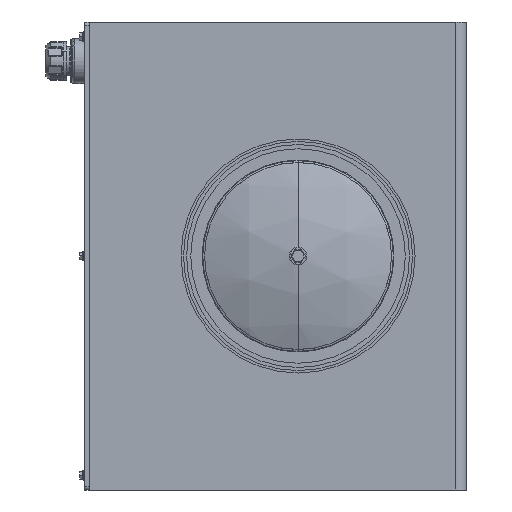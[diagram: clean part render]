
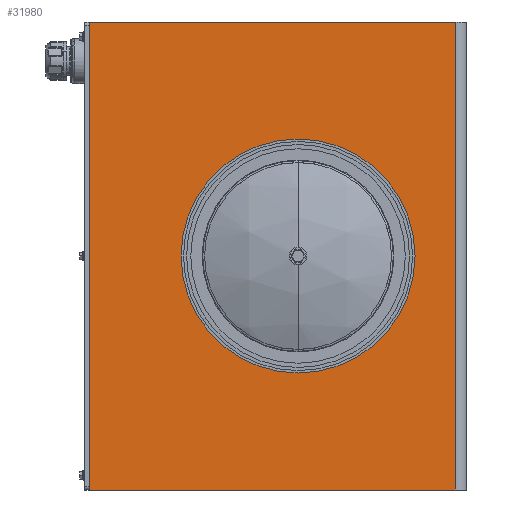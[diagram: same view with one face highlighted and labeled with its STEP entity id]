
A CAD part, left-side view. The second image highlights one B-rep face of the part: STEP entity #31980.
In plain terms, the highlighted planar face has unit normal (-1, 0, 0).
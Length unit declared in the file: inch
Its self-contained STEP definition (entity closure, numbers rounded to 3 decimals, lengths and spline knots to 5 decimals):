
#277 = ORIENTED_EDGE ( 'NONE', *, *, #19394, .F. ) ;
#388 = LINE ( 'NONE', #18922, #21617 ) ;
#879 = DIRECTION ( 'NONE',  ( 0., 0., 1. ) ) ;
#1336 = EDGE_LOOP ( 'NONE', ( #16738, #277, #16623, #35751, #9848 ) ) ;
#1836 = DIRECTION ( 'NONE',  ( 0., 0., 1. ) ) ;
#2036 = VERTEX_POINT ( 'NONE', #5637 ) ;
#2647 = FACE_OUTER_BOUND ( 'NONE', #4208, .T. ) ;
#3675 = CARTESIAN_POINT ( 'NONE',  ( -32.94802, -4.67358, 34.94538 ) ) ;
#3900 = LINE ( 'NONE', #23339, #33364 ) ;
#4208 = EDGE_LOOP ( 'NONE', ( #24961, #27914, #34320, #15551 ) ) ;
#4314 = VECTOR ( 'NONE', #35838, 39.37008 ) ;
#4847 = CARTESIAN_POINT ( 'NONE',  ( -32.94802, 7.42262, 24.94538 ) ) ;
#5637 = CARTESIAN_POINT ( 'NONE',  ( -32.94802, 0.72262, 21.31687 ) ) ;
#7907 = CARTESIAN_POINT ( 'NONE',  ( -32.94802, 23.48262, -1.05462 ) ) ;
#8090 = CARTESIAN_POINT ( 'NONE',  ( -32.94802, 23.48262, -1.05462 ) ) ;
#8103 = CARTESIAN_POINT ( 'NONE',  ( -32.94802, 7.42262, 16.94538 ) ) ;
#8158 = DIRECTION ( 'NONE',  ( 0., 0., -1. ) ) ;
#8900 = AXIS2_PLACEMENT_3D ( 'NONE', #8103, #27475, #10866 ) ;
#9065 = AXIS2_PLACEMENT_3D ( 'NONE', #7907, #10678, #30074 ) ;
#9789 = CIRCLE ( 'NONE', #15451, 8. ) ;
#9848 = ORIENTED_EDGE ( 'NONE', *, *, #20141, .F. ) ;
#10545 = EDGE_CURVE ( 'NONE', #19692, #15082, #9789, .T. ) ;
#10558 = VERTEX_POINT ( 'NONE', #3675 ) ;
#10678 = DIRECTION ( 'NONE',  ( 1., 0., 0. ) ) ;
#10866 = DIRECTION ( 'NONE',  ( 0., 0., 1. ) ) ;
#11325 = DIRECTION ( 'NONE',  ( -1., 0., 0. ) ) ;
#12274 = VERTEX_POINT ( 'NONE', #8090 ) ;
#12308 = DIRECTION ( 'NONE',  ( 0., -1., 0. ) ) ;
#13357 = AXIS2_PLACEMENT_3D ( 'NONE', #27931, #11325, #30714 ) ;
#14181 = VECTOR ( 'NONE', #1836, 39.37008 ) ;
#14278 = VECTOR ( 'NONE', #24060, 39.37008 ) ;
#14970 = CARTESIAN_POINT ( 'NONE',  ( -32.94802, 0.72262, 12.57388 ) ) ;
#15082 = VERTEX_POINT ( 'NONE', #23852 ) ;
#15157 = LINE ( 'NONE', #29617, #14278 ) ;
#15258 = VERTEX_POINT ( 'NONE', #19449 ) ;
#15451 = AXIS2_PLACEMENT_3D ( 'NONE', #34078, #17480, #879 ) ;
#15551 = ORIENTED_EDGE ( 'NONE', *, *, #19136, .T. ) ;
#15630 = VERTEX_POINT ( 'NONE', #26732 ) ;
#16391 = VECTOR ( 'NONE', #8158, 39.37008 ) ;
#16507 = CARTESIAN_POINT ( 'NONE',  ( -32.94802, 0.54262, 16.94538 ) ) ;
#16548 = EDGE_CURVE ( 'NONE', #15630, #12274, #23780, .T. ) ;
#16623 = ORIENTED_EDGE ( 'NONE', *, *, #26853, .F. ) ;
#16738 = ORIENTED_EDGE ( 'NONE', *, *, #19248, .F. ) ;
#17480 = DIRECTION ( 'NONE',  ( -1., 0., 0. ) ) ;
#18429 = CARTESIAN_POINT ( 'NONE',  ( -32.94802, -4.67358, -1.05462 ) ) ;
#18911 = PLANE ( 'NONE',  #9065 ) ;
#18922 = CARTESIAN_POINT ( 'NONE',  ( -32.94802, -5.51738, 34.94538 ) ) ;
#19107 = VERTEX_POINT ( 'NONE', #14970 ) ;
#19136 = EDGE_CURVE ( 'NONE', #12274, #15258, #3900, .T. ) ;
#19248 = EDGE_CURVE ( 'NONE', #21705, #2036, #15157, .T. ) ;
#19394 = EDGE_CURVE ( 'NONE', #19107, #21705, #33783, .T. ) ;
#19414 = CIRCLE ( 'NONE', #13357, 8. ) ;
#19449 = CARTESIAN_POINT ( 'NONE',  ( -32.94802, -4.67358, -1.05462 ) ) ;
#19692 = VERTEX_POINT ( 'NONE', #4847 ) ;
#20141 = EDGE_CURVE ( 'NONE', #2036, #19692, #19414, .T. ) ;
#20884 = EDGE_CURVE ( 'NONE', #15258, #10558, #35379, .T. ) ;
#21617 = VECTOR ( 'NONE', #35470, 39.37008 ) ;
#21647 = CARTESIAN_POINT ( 'NONE',  ( -32.94802, 0.54262, 16.94538 ) ) ;
#21705 = VERTEX_POINT ( 'NONE', #21647 ) ;
#22478 = CIRCLE ( 'NONE', #8900, 8. ) ;
#23339 = CARTESIAN_POINT ( 'NONE',  ( -32.94802, -5.51738, -1.05462 ) ) ;
#23780 = LINE ( 'NONE', #24761, #16391 ) ;
#23852 = CARTESIAN_POINT ( 'NONE',  ( -32.94802, 7.42262, 8.94538 ) ) ;
#23904 = FACE_BOUND ( 'NONE', #1336, .T. ) ;
#24060 = DIRECTION ( 'NONE',  ( 0., 0.041, 0.999 ) ) ;
#24761 = CARTESIAN_POINT ( 'NONE',  ( -32.94802, 23.48262, -1.05462 ) ) ;
#24961 = ORIENTED_EDGE ( 'NONE', *, *, #20884, .T. ) ;
#26732 = CARTESIAN_POINT ( 'NONE',  ( -32.94802, 23.48262, 34.94538 ) ) ;
#26853 = EDGE_CURVE ( 'NONE', #15082, #19107, #22478, .T. ) ;
#27475 = DIRECTION ( 'NONE',  ( -1., 0., 0. ) ) ;
#27914 = ORIENTED_EDGE ( 'NONE', *, *, #35198, .T. ) ;
#27931 = CARTESIAN_POINT ( 'NONE',  ( -32.94802, 7.42262, 16.94538 ) ) ;
#29617 = CARTESIAN_POINT ( 'NONE',  ( -32.94802, 0.54262, 16.94538 ) ) ;
#30074 = DIRECTION ( 'NONE',  ( 0., 0., -1. ) ) ;
#30714 = DIRECTION ( 'NONE',  ( 0., 0., 1. ) ) ;
#31980 = ADVANCED_FACE ( 'NONE', ( #23904, #2647 ), #18911, .F. ) ;
#33364 = VECTOR ( 'NONE', #12308, 39.37008 ) ;
#33783 = LINE ( 'NONE', #16507, #4314 ) ;
#34078 = CARTESIAN_POINT ( 'NONE',  ( -32.94802, 7.42262, 16.94538 ) ) ;
#34320 = ORIENTED_EDGE ( 'NONE', *, *, #16548, .T. ) ;
#35198 = EDGE_CURVE ( 'NONE', #10558, #15630, #388, .T. ) ;
#35379 = LINE ( 'NONE', #18429, #14181 ) ;
#35470 = DIRECTION ( 'NONE',  ( 0., 1., 0. ) ) ;
#35751 = ORIENTED_EDGE ( 'NONE', *, *, #10545, .F. ) ;
#35838 = DIRECTION ( 'NONE',  ( 0., -0.041, 0.999 ) ) ;
